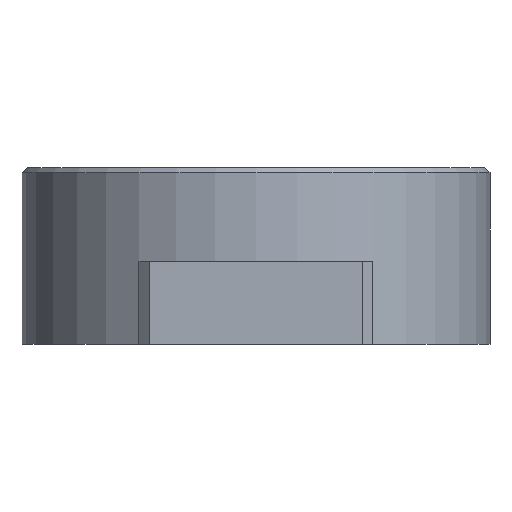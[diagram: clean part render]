
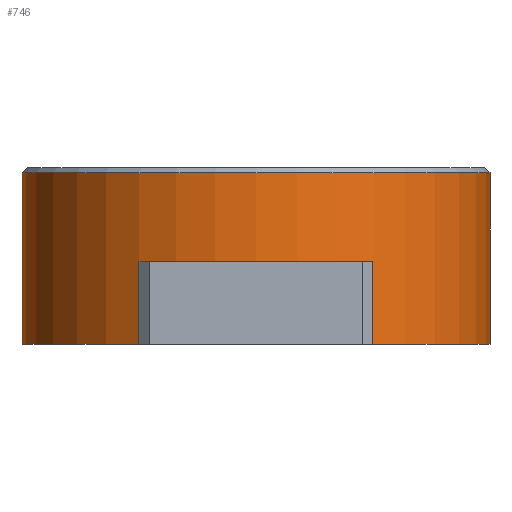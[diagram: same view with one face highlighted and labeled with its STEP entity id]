
A CAD part, front view. The second image highlights one B-rep face of the part: STEP entity #746.
In plain terms, the highlighted cylindrical face has radius 45 mm (diameter 90 mm), a full revolution.
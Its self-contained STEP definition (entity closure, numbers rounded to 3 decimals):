
#549=CYLINDRICAL_SURFACE('',#1908,45.);
#582=FACE_BOUND('',#949,.T.);
#583=FACE_BOUND('',#950,.T.);
#666=CIRCLE('',#1902,45.);
#667=CIRCLE('',#1904,45.);
#669=CIRCLE('',#1907,45.);
#746=ADVANCED_FACE('',(#582,#583),#549,.T.);
#949=EDGE_LOOP('',(#1108));
#950=EDGE_LOOP('',(#1109,#1110,#1111,#1112));
#1108=ORIENTED_EDGE('',*,*,#1566,.T.);
#1109=ORIENTED_EDGE('',*,*,#1564,.T.);
#1110=ORIENTED_EDGE('',*,*,#1548,.F.);
#1111=ORIENTED_EDGE('',*,*,#1560,.F.);
#1112=ORIENTED_EDGE('',*,*,#1556,.T.);
#1419=VERTEX_POINT('',#2503);
#1422=VERTEX_POINT('',#2508);
#1428=VERTEX_POINT('',#2522);
#1430=VERTEX_POINT('',#2526);
#1434=VERTEX_POINT('',#2545);
#1548=EDGE_CURVE('',#1422,#1419,#1718,.T.);
#1556=EDGE_CURVE('',#1428,#1430,#1726,.T.);
#1560=EDGE_CURVE('',#1428,#1422,#666,.T.);
#1564=EDGE_CURVE('',#1430,#1419,#667,.T.);
#1566=EDGE_CURVE('',#1434,#1434,#669,.T.);
#1718=LINE('',#2509,#1808);
#1726=LINE('',#2527,#1816);
#1808=VECTOR('',#2072,1.);
#1816=VECTOR('',#2084,1.);
#1902=AXIS2_PLACEMENT_3D('',#2535,#2094,#2095);
#1904=AXIS2_PLACEMENT_3D('',#2540,#2101,#2102);
#1907=AXIS2_PLACEMENT_3D('',#2544,#2107,#2108);
#1908=AXIS2_PLACEMENT_3D('',#2546,#2109,#2110);
#2072=DIRECTION('',(0.,0.,-1.));
#2084=DIRECTION('',(0.,0.,-1.));
#2094=DIRECTION('',(0.,0.,-1.));
#2095=DIRECTION('',(1.,0.,0.));
#2101=DIRECTION('',(0.,0.,1.));
#2102=DIRECTION('',(1.,0.,0.));
#2107=DIRECTION('',(0.,0.,-1.));
#2108=DIRECTION('',(1.,0.,0.));
#2109=DIRECTION('',(0.,0.,-1.));
#2110=DIRECTION('',(-1.,0.,0.));
#2503=CARTESIAN_POINT('',(-22.5,-38.971,0.));
#2508=CARTESIAN_POINT('',(-22.5,-38.971,16.));
#2509=CARTESIAN_POINT('',(-22.5,-38.971,16.));
#2522=CARTESIAN_POINT('',(22.5,-38.971,16.));
#2526=CARTESIAN_POINT('',(22.5,-38.971,0.));
#2527=CARTESIAN_POINT('',(22.5,-38.971,16.));
#2535=CARTESIAN_POINT('',(0.,0.,16.));
#2540=CARTESIAN_POINT('',(0.,0.,0.));
#2544=CARTESIAN_POINT('',(0.,0.,33.));
#2545=CARTESIAN_POINT('',(45.,0.,33.));
#2546=CARTESIAN_POINT('',(0.,0.,34.));
